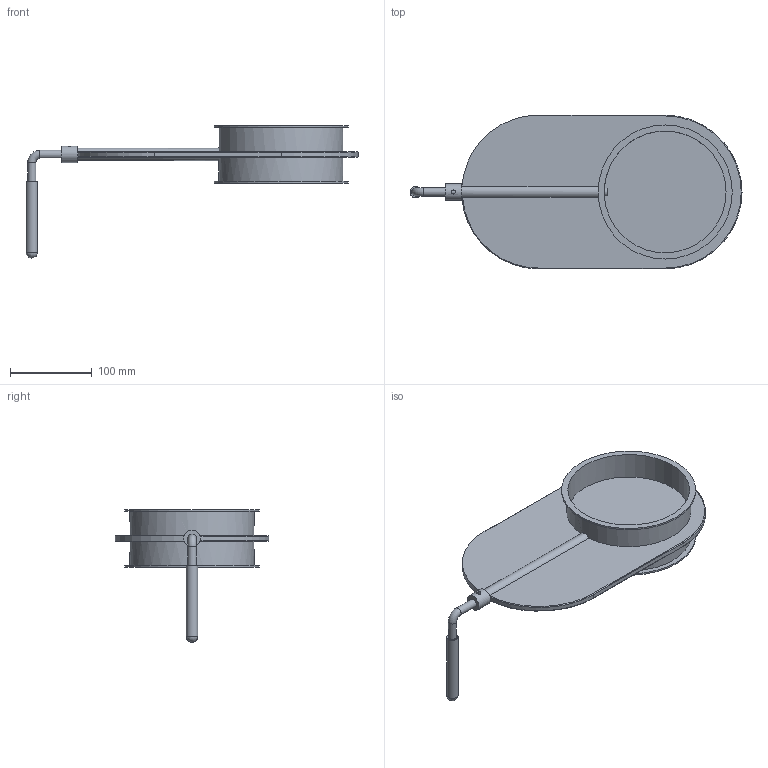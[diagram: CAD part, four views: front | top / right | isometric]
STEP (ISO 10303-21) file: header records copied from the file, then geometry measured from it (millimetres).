
FILE_DESCRIPTION((''),'2;1');
FILE_NAME('U:\Wolfgang\Marcel-3D\fertig\Kapitel 9\1511077.stp','2011-10-11T12:56:20',('iwienholt'),(''),'Autodesk Inventor 2010','Autodesk Inventor 2010','');
FILE_SCHEMA(('AUTOMOTIVE_DESIGN { 1 0 10303 214 1 1 1 1 }'));
Length unit declared in the file: millimetre
Products named in the file (3): 1511077; 1511077-1; Hebel-Ronde DN150
Assembly tree (2 placements, depth 2):
  1511077
    1511077-1
    Hebel-Ronde DN150
Bounding box: 406 x 188.04 x 161.95 mm (x, y, z)
Volume: 340425.2 mm3; surface area: 303225.6 mm2
Topology: 2 solids, 2 shells, 49 faces, 125 edges, 80 vertices
Faces by surface type: cylinder 24, plane 19, torus 5, sphere 1
Full cylindrical faces by diameter (mm): 4.917 x1, 10 x2, 10.5 x1, 14 x1, 15 x1, 20 x1, 149 x2, 152 x2, 164 x2
Entity records: 1628 total; most frequent: CARTESIAN_POINT 471, DIRECTION 234, ORIENTED_EDGE 196, AXIS2_PLACEMENT_3D 100, EDGE_CURVE 98, EDGE_LOOP 72, VERTEX_POINT 70, FACE_OUTER_BOUND 49
